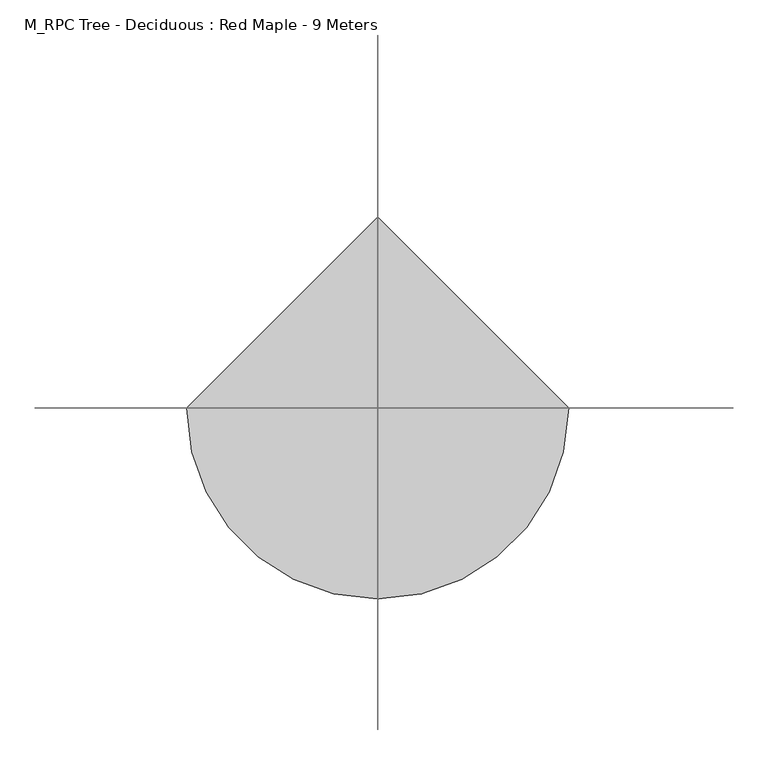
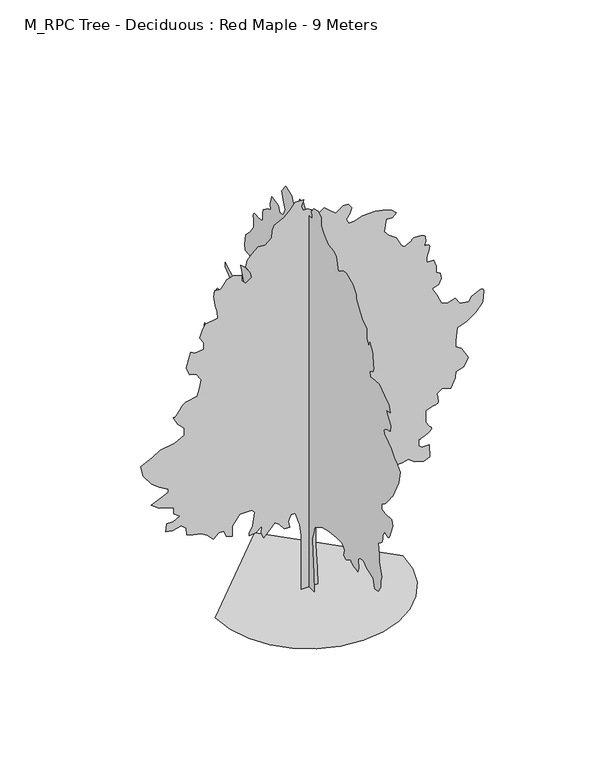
"""IFC4 building model written with IfcOpenShell, lengths in millimetres: geographic element geometry, M_RPC Tree - Deciduous : Red Maple - 9 Meters."""

from ifc_helpers import new_model, si_unit, origin, place, context, project, spatial, triangles, source, transform, mapped, element, save


def m_rpc_tree_deciduous_red_maple_9_meters_b7f9c851(model_context):
    return source(origin(), model_context, "Body", "Tessellation", [
        triangles([(5.8e-06, 197.3661507, 0.0129526), (5.8e-06, -197.3841547, 0.0129526), (5.8e-06, -171.0676287, 394.7628227), (5.8e-06, -144.750367, 907.9407286), (5.8e-06, -131.5926036, 1197.4234222), (5.8e-06, -171.0676287, 1342.1660408), (5.8e-06, -223.7014255, 1513.2237682), (5.8e-06, -315.8102654, 1565.8587822), (5.8e-06, -526.342909, 1684.2838211), (5.8e-06, -750.035614, 1736.9163643), (5.8e-06, -1052.6783329, 1776.3914257), (5.8e-06, -1263.2109764, 1776.3914257), (5.8e-06, -1355.318581, 1671.1238686), (5.8e-06, -1315.8435196, 1526.38125), (5.8e-06, -1421.1110767, 1486.9061886), (5.8e-06, -1592.1712749, 1579.016264), (5.8e-06, -1595.2388203, 1567.7362839), (5.8e-06, -1599.8038033, 1556.4587746), (5.8e-06, -1607.3613361, 1545.1812653), (5.8e-06, -1619.4088566, 1533.9012852), (5.8e-06, -1637.4388607, 1522.6237759), (5.8e-06, -1662.9487862, 1511.3436504), (5.8e-06, -1697.4363613, 1500.0661411), (5.8e-06, -1733.4588718, 1490.3212418), (5.8e-06, -1763.2689709, 1483.3386738), (5.8e-06, -1787.8963921, 1478.6611977), (5.8e-06, -1808.3814789, 1475.8211094), (5.8e-06, -1825.7589066, 1474.3636402), (5.8e-06, -1841.0664024, 1473.826173), (5.8e-06, -1855.3364616, 1473.7487068), (5.8e-06, -1881.6540413, 1565.8587822), (5.8e-06, -1868.4965595, 1763.2339439), (5.8e-06, -1947.446537, 1842.1839214), (5.8e-06, -2079.029203, 1855.3415485), (5.8e-06, -2184.2967602, 1750.0738461), (5.8e-06, -2434.3044651, 1671.1238686), (5.8e-06, -2500.1020477, 1473.7487068), (5.8e-06, -2618.5270866, 1486.9061886), (5.8e-06, -2723.7770576, 1644.8087597), (5.8e-06, -2723.7770576, 1776.3914257), (5.8e-06, -2750.102195, 1881.6589828), (5.8e-06, -2658.0020027, 2184.299231), (5.8e-06, -2658.0020027, 2355.3594292), (5.8e-06, -2631.6771561, 2618.5270866), (5.8e-06, -2634.7019714, 2618.6770775), (5.8e-06, -2639.0019997, 2619.7520119), (5.8e-06, -2645.8271645, 2622.677124), (5.8e-06, -2656.4520973, 2628.3520683), (5.8e-06, -2672.1520111, 2637.702079), (5.8e-06, -2694.1771202, 2651.6770981), (5.8e-06, -2723.7770576, 2671.1520721), (5.8e-06, -2752.6273315, 2695.2520546), (5.8e-06, -2772.5022812, 2722.1021599), (5.8e-06, -2784.9021057, 2751.2521248), (5.8e-06, -2791.3022964, 2782.2522675), (5.8e-06, -2793.227179, 2814.6273262), (5.8e-06, -2792.1522446, 2847.9273285), (5.8e-06, -2789.5771111, 2881.7023018), (5.8e-06, -2868.5272339, 3013.2774101), (5.8e-06, -2899.4523811, 2993.9524269), (5.8e-06, -2929.8022728, 2977.0272972), (5.8e-06, -2958.9772362, 2964.9524529), (5.8e-06, -2986.4523033, 2960.1024582), (5.8e-06, -3011.6275108, 2964.9524529), (5.8e-06, -3033.902314, 2981.8522934), (5.8e-06, -3052.7523262, 3013.2774101), (5.8e-06, -3184.3274345, 3329.0776108), (5.8e-06, -3144.8525185, 3460.6527191), (5.8e-06, -2894.8523712, 3447.5026497), (5.8e-06, -2750.102195, 3460.6527191), (5.8e-06, -2763.2522644, 3592.2528259), (5.8e-06, -2797.1272316, 3612.2277695), (5.8e-06, -2831.2521835, 3633.7029121), (5.8e-06, -2865.8024002, 3658.1778717), (5.8e-06, -2901.0522835, 3687.1528473), (5.8e-06, -2937.227401, 3722.1030396), (5.8e-06, -2974.5774467, 3764.5280663), (5.8e-06, -3013.2774101, 3815.9281265), (5.8e-06, -3049.3025368, 3866.5782326), (5.8e-06, -3079.102462, 3906.8530998), (5.8e-06, -3103.7274124, 3938.5032028), (5.8e-06, -3124.2276146, 3963.2531456), (5.8e-06, -3141.6024261, 3982.8031151), (5.8e-06, -3156.902655, 3998.9282936), (5.8e-06, -3171.1776558, 4013.3032883), (5.8e-06, -3394.8776642, 4460.7035957), (5.8e-06, -3460.6527191, 4750.1786591), (5.8e-06, -3315.9275414, 4908.0789047), (5.8e-06, -3250.1274879, 4921.2286835), (5.8e-06, -3105.3776024, 5105.4540665), (5.8e-06, -3013.2774101, 5171.2541199), (5.8e-06, -2976.8773064, 5188.2792435), (5.8e-06, -2941.9524033, 5206.0043243), (5.8e-06, -2910.027317, 5225.1043213), (5.8e-06, -2882.6022469, 5246.2791916), (5.8e-06, -2861.1773918, 5270.2294739), (5.8e-06, -2847.2023727, 5297.6039658), (5.8e-06, -2842.2023872, 5329.1543655), (5.8e-06, -2849.1272552, 5359.9042328), (5.8e-06, -2868.4522385, 5385.1544357), (5.8e-06, -2898.1524605, 5405.8043381), (5.8e-06, -2936.1274681, 5422.7544662), (5.8e-06, -2980.3273865, 5436.9541809), (5.8e-06, -3028.6523438, 5449.3045898), (5.8e-06, -3079.0524651, 5460.7294739), (5.8e-06, -3092.227533, 5605.4793594), (5.8e-06, -3026.4274796, 5710.7293304), (5.8e-06, -2921.1522194, 5855.4797974), (5.8e-06, -3079.0524651, 5894.9547134), (5.8e-06, -3026.4274796, 6052.8549591), (5.8e-06, -2855.3771645, 6158.1299286), (5.8e-06, -2658.0020027, 6302.8548157), (5.8e-06, -2486.9394791, 6289.7050369), (5.8e-06, -2329.0393787, 6276.5552582), (5.8e-06, -2302.7217991, 6381.8052292), (5.8e-06, -2381.6719219, 6434.4549225), (5.8e-06, -2395.6744102, 6437.4803192), (5.8e-06, -2409.1019337, 6441.7800568), (5.8e-06, -2421.3769112, 6448.6052216), (5.8e-06, -2431.9269939, 6459.2301544), (5.8e-06, -2440.1743103, 6474.9303589), (5.8e-06, -2445.5443314, 6496.9551773), (5.8e-06, -2447.464563, 6526.5551147), (5.8e-06, -2446.3120171, 6563.455188), (5.8e-06, -2443.0918648, 6605.8805054), (5.8e-06, -2438.1420216, 6652.9305405), (5.8e-06, -2431.8118847, 6703.6303528), (5.8e-06, -2424.4469273, 6757.1055771), (5.8e-06, -2416.3894249, 6812.4306885), (5.8e-06, -2407.9893562, 6868.6807434), (5.8e-06, -2302.7217991, 7052.905545), (5.8e-06, -2263.246883, 6947.6305756), (5.8e-06, -2197.4542419, 7066.0559052), (5.8e-06, -2197.4542419, 7316.0557617), (5.8e-06, -2026.3966599, 7421.3307312), (5.8e-06, -1907.9714756, 7579.2309769), (5.8e-06, -1789.5464367, 7750.2810013), (5.8e-06, -1789.5464367, 7842.406192), (5.8e-06, -1657.9612999, 8000.3064377), (5.8e-06, -1421.1110767, 8118.7317673), (5.8e-06, -1289.5285561, 8092.4066299), (5.8e-06, -1118.4684305, 7973.9813004), (5.8e-06, -1026.3608259, 8263.4566544), (5.8e-06, -934.2507505, 8329.2567078), (5.8e-06, -723.718107, 8355.5818451), (5.8e-06, -565.8179704, 8513.4820908), (5.8e-06, -460.552884, 8631.906839), (5.8e-06, -460.552884, 8816.1072235), (5.8e-06, -342.1277724, 8895.0570557), (5.8e-06, -184.2254012, 8855.5821396), (5.8e-06, -92.1178238, 8737.15681), (5.8e-06, -105.8898302, 8706.3569458), (5.8e-06, -117.7053427, 8676.8070053), (5.8e-06, -125.607849, 8649.8069092), (5.8e-06, -127.6411006, 8626.6071625), (5.8e-06, -121.8483492, 8608.4571075), (5.8e-06, -106.2730826, 8596.6316666), (5.8e-06, -78.9590612, 8592.4319229), (5.8e-06, 105.2585824, 8592.4319229), (5.8e-06, 223.6836758, 8763.4819473), (5.8e-06, 355.2677771, 8750.3321686), (5.8e-06, 421.0578383, 8592.4319229), (5.8e-06, 592.1179639, 8513.4820908), (5.8e-06, 657.9080252, 8645.0571991), (5.8e-06, 881.6006939, 8737.15681), (5.8e-06, 1026.3433125, 8539.7816483), (5.8e-06, 960.5507441, 8316.106929), (5.8e-06, 907.9182009, 8171.3564621), (5.8e-06, 973.7107693, 8013.4562164), (5.8e-06, 1105.2933626, 7987.1316605), (5.8e-06, 1157.9259058, 8131.881546), (5.8e-06, 1421.0936359, 8158.2066833), (5.8e-06, 1473.7286499, 7973.9813004), (5.8e-06, 1447.4112156, 7842.406192), (5.8e-06, 1565.8362545, 7802.9312759), (5.8e-06, 1736.8938366, 7671.3311691), (5.8e-06, 1750.0539345, 7579.2309769), (5.8e-06, 1750.0539345, 7421.3307312), (5.8e-06, 1815.8439594, 7381.8558151), (5.8e-06, 1973.7440598, 7381.8558151), (5.8e-06, 2004.5116585, 7387.106076), (5.8e-06, 2033.7816742, 7390.055896), (5.8e-06, 2060.05914, 7388.4059967), (5.8e-06, 2081.8492344, 7379.8559372), (5.8e-06, 2097.654229, 7362.1058578), (5.8e-06, 2105.9791569, 7332.8309006), (5.8e-06, 2105.3291965, 7289.7556229), (5.8e-06, 2100.4566742, 7242.4306046), (5.8e-06, 2096.9666256, 7201.3557861), (5.8e-06, 2094.6266521, 7165.4556519), (5.8e-06, 2093.2066807, 7133.6808472), (5.8e-06, 2092.476638, 7105.0308517), (5.8e-06, 2092.2092125, 7078.4307312), (5.8e-06, 2092.1717148, 7052.905545), (5.8e-06, 2223.7542355, 6868.6807434), (5.8e-06, 2394.8119629, 6697.6301376), (5.8e-06, 2434.286879, 6447.6052826), (5.8e-06, 2407.9719154, 6329.179953), (5.8e-06, 2276.3867786, 6316.0301743), (5.8e-06, 2171.1216923, 6289.7050369), (5.8e-06, 2092.1717148, 6118.6550125), (5.8e-06, 2197.4368011, 5921.2798508), (5.8e-06, 2434.286879, 5921.2798508), (5.8e-06, 2592.1769508, 5868.6295761), (5.8e-06, 2460.6044586, 5526.5295273), (5.8e-06, 2579.0271721, 5394.9294205), (5.8e-06, 2907.9774422, 5434.4043365), (5.8e-06, 3000.1023422, 5487.0546112), (5.8e-06, 3184.3024361, 5579.1542221), (5.8e-06, 3171.1526573, 5487.0546112), (5.8e-06, 2934.3022888, 5276.5040909), (5.8e-06, 2842.2023872, 4987.0287369), (5.8e-06, 2947.4523582, 4763.3287285), (5.8e-06, 3092.2025345, 4776.5037964), (5.8e-06, 3095.3773407, 4790.453817), (5.8e-06, 3100.752594, 4803.6288849), (5.8e-06, 3110.5025803, 4815.1787613), (5.8e-06, 3126.8024574, 4824.3037857), (5.8e-06, 3151.8523819, 4830.204007), (5.8e-06, 3187.8525101, 4832.0788925), (5.8e-06, 3236.9527107, 4829.1287819), (5.8e-06, 3473.8027885, 4802.8039352), (5.8e-06, 3592.2278275, 4631.7536201), (5.8e-06, 3552.7529114, 4447.5285278), (5.8e-06, 3408.0027351, 4342.2785568), (5.8e-06, 3289.5776962, 4052.7782043), (5.8e-06, 3342.2026817, 3868.5781105), (5.8e-06, 3394.8526657, 3802.7780571), (5.8e-06, 3526.427774, 3579.077758), (5.8e-06, 3789.6029892, 3605.4028954), (5.8e-06, 3960.6533043, 3710.6778648), (5.8e-06, 4013.2782898, 3473.827787), (5.8e-06, 3763.2781425, 3355.4027481), (5.8e-06, 3592.2278275, 3302.7527641), (5.8e-06, 3473.8027885, 3039.6025475), (5.8e-06, 3408.0027351, 2881.7023018), (5.8e-06, 3329.0526123, 2658.0020027), (5.8e-06, 3184.3024361, 2684.32714), (5.8e-06, 2960.6274261, 2723.8020561), (5.8e-06, 2776.4023338, 2684.32714), (5.8e-06, 2644.8272255, 2473.7844681), (5.8e-06, 2815.8772499, 2302.726886), (5.8e-06, 2973.7774956, 2276.4093063), (5.8e-06, 3000.1023422, 2026.3991306), (5.8e-06, 2988.6274612, 2001.2715946), (5.8e-06, 2976.0023598, 1977.6416416), (5.8e-06, 2961.0773987, 1957.0016224), (5.8e-06, 2942.7023575, 1940.8515907), (5.8e-06, 2919.7273064, 1930.6865135), (5.8e-06, 2891.0023155, 1928.001503), (5.8e-06, 2855.352166, 1934.291526), (5.8e-06, 2818.1771095, 1946.7215813), (5.8e-06, 2785.1520905, 1961.2215683), (5.8e-06, 2755.5771515, 1977.4490662), (5.8e-06, 2728.7520447, 1995.0590378), (5.8e-06, 2704.0271004, 2013.7016499), (5.8e-06, 2680.6520737, 2033.0366615), (5.8e-06, 2657.9770042, 2052.7167103), (5.8e-06, 2565.8771027, 2157.9842674), (5.8e-06, 2548.8019821, 2185.796814), (5.8e-06, 2530.801918, 2211.3067394), (5.8e-06, 2510.9769653, 2232.2143295), (5.8e-06, 2488.3795074, 2246.2168179), (5.8e-06, 2462.0994255, 2251.0117287), (5.8e-06, 2431.219479, 2244.2993477), (5.8e-06, 2394.8119629, 2223.7767632), (5.8e-06, 2349.1993401, 2197.1142918), (5.8e-06, 2292.5368103, 2173.2142971), (5.8e-06, 2226.6693192, 2151.6167782), (5.8e-06, 2153.4342545, 2131.8592632), (5.8e-06, 2074.6767071, 2113.484222), (5.8e-06, 1992.2365356, 2096.0291828), (5.8e-06, 1907.9540348, 2079.0341446), (5.8e-06, 1697.4189205, 2026.3991306), (5.8e-06, 1763.2114162, 1894.8164646), (5.8e-06, 1973.7440598, 1763.2339439), (5.8e-06, 2079.0116169, 1592.1737457), (5.8e-06, 1894.7940823, 1526.38125), (5.8e-06, 1869.3215092, 1526.5736801), (5.8e-06, 1843.2739712, 1527.9161854), (5.8e-06, 1816.0738873, 1531.5611664), (5.8e-06, 1787.1489086, 1538.6586983), (5.8e-06, 1755.9214542, 1550.3587109), (5.8e-06, 1721.8164139, 1567.8137501), (5.8e-06, 1684.2612934, 1592.1737457), (5.8e-06, 1645.5537724, 1620.7538326), (5.8e-06, 1608.2262543, 1650.0238483), (5.8e-06, 1572.0512821, 1679.8712997), (5.8e-06, 1536.7961666, 1710.1764267), (5.8e-06, 1502.2312706, 1740.8289162), (5.8e-06, 1468.1262302, 1771.7114788), (5.8e-06, 1434.2511177, 1802.7090054), (5.8e-06, 1171.085931, 1881.6589828), (5.8e-06, 960.5507441, 1921.1340443), (5.8e-06, 750.0181005, 1973.7665874), (5.8e-06, 539.4829136, 1934.291526), (5.8e-06, 249.9999474, 1829.0239689), (5.8e-06, 171.0498791, 1723.7588825), (5.8e-06, 105.2585824, 1539.5412025), (5.8e-06, 78.9410663, 1276.3735451), (5.8e-06, 105.2585824, 921.0982103), (5.8e-06, 157.8911256, 407.9228116), (-2052.3641155, 0.0, 0.0), (-1998.1065262, -470.2653726, 0.0), (-1843.5815105, -902.1306908, 0.0), (-1601.1612785, -1283.2184761, 0.0), (-1283.2184761, -1601.1612785, 0.0), (-902.1306908, -1843.5815105, 0.0), (-470.2653726, -1998.1065262, 0.0), (8.97e-05, -2052.3641155, 0.0), (470.2653726, -1998.1065262, 0.0), (902.1306908, -1843.5815105, 0.0), (1283.2184761, -1601.1612785, 0.0), (1601.1612785, -1283.2184761, 0.0), (1843.5815105, -902.1306908, 0.0), (1998.1065262, -470.2653726, 0.0), (2052.3641155, 0.0001799, 0.0), (-0.0002691, 2052.3641155, 0.0), (196.7396627, 0.0002249, 0.0051811), (-167.0323917, 0.0002249, 0.0051811), (-167.0323917, 0.0001889, 673.6580086), (-167.0323917, 0.0001619, 1023.9582836), (-167.0323917, 0.0001529, 1252.9985184), (-207.4516724, 0.0001349, 1508.988707), (-301.7627399, 0.0001169, 1805.3940159), (-396.0753153, 0.0001169, 1805.3940159), (-449.967847, 0.0001259, 1657.1912888), (-423.0203276, 0.0001349, 1522.4612858), (-544.2779334, 0.0001349, 1535.9337193), (-652.0630331, 0.0001259, 1670.6638676), (-746.3755903, 0.0001259, 1738.0289417), (-854.1581829, 0.0001259, 1616.7712269), (-988.8882586, 0.0001349, 1482.0412239), (-1042.7808266, 0.0001349, 1603.2987934), (-1029.3083204, 0.0001259, 1764.9764248), (-1164.0383961, 0.0001259, 1657.1912888), (-1312.243594, 0.0001259, 1643.7188553), (-1312.243594, 0.0001259, 1711.0839294), (-1231.4034702, 0.0001169, 1845.8139324), (-1190.9859518, 9.89e-05, 2142.2217121), (-1258.3509533, 9.89e-05, 2209.5867863), (-1514.3386711, 9.89e-05, 2209.5867863), (-1676.0138317, 0.0001079, 1980.5440807), (-1676.0138317, 0.0001169, 1886.2339943), (-1676.0138317, 0.0001259, 1751.503846), (-1810.7464508, 0.0001169, 1805.3940159), (-1864.6389462, 0.0001079, 1940.1264896), (-1972.4216114, 0.0001079, 1940.1264896), (-2093.6791809, 0.0001169, 1832.3414989), (-2228.4093292, 0.0001079, 1967.0715019), (-2363.1419483, 0.0001079, 2047.9091549), (-2538.3020416, 9.89e-05, 2088.3292168), (-2673.0272484, 9.89e-05, 2142.2217121), (-2686.5020073, 8.99e-05, 2290.4242939), (-2794.2771149, 8.1e-05, 2384.7368511), (-2996.3772789, 8.99e-05, 2344.3169346), (-3131.1024857, 8.1e-05, 2371.2644176), (-3117.6274361, 7.2e-05, 2546.4021286), (-2969.4274704, 7.2e-05, 2546.4021286), (-2834.7022636, 7.2e-05, 2627.2521355), (-2955.9524208, 6.3e-05, 2721.5521935), (-2955.9524208, 5.4e-05, 2856.3023987), (-3090.6773369, 5.4e-05, 2910.1773079), (-3279.302742, 5.4e-05, 2964.0775063), (-3454.4528069, 4.5e-05, 3098.8024223), (-3238.8775932, 3.6e-05, 3193.1274788), (-3077.202578, 3.6e-05, 3260.4777283), (-3077.202578, 2.7e-05, 3327.8526855), (-3279.302742, 1.8e-05, 3449.1028427), (-3440.9777573, 1.8e-05, 3570.3779984), (-3629.6028717, 0.0, 3826.3530716), (-3683.5030701, -1.8e-05, 4068.8783844), (-3575.7279625, -1.8e-05, 4122.7532936), (-3427.5027077, -2.7e-05, 4190.1282509), (-3252.3526428, -2.7e-05, 4297.9033585), (-2942.4773712, -3.6e-05, 4351.8035568), (-2726.9021576, -3.6e-05, 4459.5786644), (-2726.9021576, -4.5e-05, 4621.2536797), (-2875.1274124, -5.4e-05, 4769.4789345), (-2969.4274704, -7.2e-05, 4944.6289993), (-2960.6274261, -7.2e-05, 4942.0541565), (-2951.0024323, -7.2e-05, 4941.5041901), (-2939.7272484, -7.2e-05, 4944.978978), (-2925.9772156, -7.2e-05, 4954.4289825), (-2908.9273842, -7.2e-05, 4971.9040787), (-2887.7772217, -7.2e-05, 4999.4041443), (-2861.6523628, -7.2e-05, 5038.9290573), (-2833.9523094, -7.2e-05, 5080.8038269), (-2808.3771263, -8.1e-05, 5114.904071), (-2784.5771255, -8.1e-05, 5142.5041306), (-2762.17733, -8.1e-05, 5164.9289246), (-2740.8521782, -8.1e-05, 5183.4789551), (-2720.2272743, -8.1e-05, 5199.4291443), (-2699.9770569, -8.1e-05, 5214.0794128), (-2443.9793106, -8.99e-05, 5267.9790298), (-2390.0869606, -9.89e-05, 5456.6041443), (-2363.1419483, -0.0001079, 5618.2797409), (-2470.9270844, -0.0001169, 5779.9547562), (-2605.6520004, -0.0001169, 5820.3546158), (-2686.5020073, -0.0001349, 5995.5049713), (-2632.6020996, -0.0001439, 6184.1300858), (-2592.1769508, -0.0001529, 6332.3303421), (-2497.8719513, -0.0001439, 6278.4551422), (-2309.2493076, -0.0001529, 6305.4052414), (-2309.2493076, -0.0001619, 6453.6049164), (-2390.0869606, -0.0001619, 6588.3304138), (-2336.1943199, -0.0001709, 6736.5306702), (-2268.8292458, -0.0001799, 6871.2555862), (-1999.3690945, -0.0001889, 6911.6804443), (-2012.8416733, -0.0001979, 7073.3554596), (-2053.2615898, -0.0002069, 7221.5557159), (-2080.2066021, -0.0002159, 7437.1309296), (-2066.7341686, -0.0002249, 7571.8558456), (-1932.0040203, -0.0002249, 7558.3810867), (-1864.6389462, -0.0002249, 7639.2313843), (-1797.273872, -0.0002339, 7733.5314423), (-1662.5413982, -0.0002339, 7773.9563004), (-1473.9186092, -0.0002339, 7720.056102), (-1473.9186092, -0.0002249, 7598.8059448), (-1379.6086681, -0.0002249, 7504.5058868), (-1258.3509533, -0.0002249, 7598.8059448), (-1285.2959656, -0.0002339, 7733.5314423), (-1379.6086681, -0.0002429, 7881.7311172), (-1352.6610397, -0.0002519, 8029.9563721), (-1244.876049, -0.0002609, 8137.7317703), (-1110.1459007, -0.0002698, 8258.9813461), (-961.9432463, -0.0002609, 8245.5065872), (-813.7406645, -0.0002698, 8366.7817429), (-800.2656149, -0.0002788, 8514.9819992), (-759.8480965, -0.0002878, 8636.2321564), (-557.7504395, -0.0002968, 8730.5572128), (-436.4928337, -0.0002968, 8838.3320297), (-301.7627399, -0.0003058, 9000.007045), (-113.1403415, -0.0003058, 9000.007045), (-167.0323917, -0.0002968, 8851.80737), (-126.6133472, -0.0002968, 8757.4817322), (-32.3020254, -0.0002968, 8757.4817322), (48.5362907, -0.0002878, 8703.6071136), (75.4823112, -0.0002878, 8595.8067169), (237.1586891, -0.0002878, 8582.331958), (331.4702471, -0.0002878, 8649.7069153), (466.2003591, -0.0002788, 8541.9320984), (587.4579649, -0.0002788, 8434.1317017), (749.1355963, -0.0002788, 8555.4068573), (856.9206596, -0.0002788, 8555.4068573), (937.7582399, -0.0002788, 8447.6070419), (897.3382507, -0.0002698, 8312.8815445), (816.5006704, -0.0002609, 8218.5814865), (870.3931658, -0.0002609, 8110.7816711), (991.650808, -0.0002609, 8110.7816711), (1180.2734516, -0.0002609, 8178.1566284), (1449.7336029, -0.0002609, 8178.1566284), (1611.4112343, -0.0002609, 8151.2065292), (1813.5064568, -0.0002519, 8083.831572), (1907.819014, -0.0002519, 7989.531514), (1826.9788902, -0.0002429, 7895.2064575), (1692.2488873, -0.0002429, 7908.6812164), (1665.303875, -0.0002339, 7787.4310593), (1651.8288254, -0.0002249, 7639.2313843), (1746.1413826, -0.0002249, 7517.9812271), (1907.819014, -0.0002159, 7410.1808304), (2015.6016792, -0.0001979, 7194.6056168), (2082.966608, -0.0001979, 7140.7309982), (2244.6442394, -0.0002069, 7221.5557159), (2247.8267487, -0.0002069, 7233.0305969), (2252.7742664, -0.0002069, 7244.0305069), (2261.259359, -0.0002069, 7254.0810562), (2275.0468895, -0.0002069, 7262.7305283), (2295.9043373, -0.0002069, 7269.4806976), (2325.5993271, -0.0002069, 7273.8810104), (2365.9019543, -0.0002069, 7275.4559143), (2407.7743984, -0.0002069, 7273.8810104), (2441.8695557, -0.0002069, 7269.4806976), (2469.4844398, -0.0002069, 7262.7305283), (2491.91185, -0.0002069, 7254.0810562), (2510.4519974, -0.0002069, 7244.0305069), (2526.4018959, -0.0002069, 7233.0305969), (2541.0521645, -0.0002069, 7221.5557159), (2554.5269234, -0.0001979, 7100.3055588), (2527.5771149, -0.0001889, 7006.0055008), (2558.951944, -0.0001889, 7005.5555283), (2588.1021996, -0.0001889, 7002.5307129), (2612.7771469, -0.0001889, 6994.330632), (2630.7272141, -0.0001889, 6978.3304459), (2639.7272461, -0.0001889, 6951.9803101), (2637.5270897, -0.0001889, 6912.6553848), (2621.9021713, -0.0001799, 6857.780246), (2602.3272034, -0.0001799, 6799.7802979), (2589.127137, -0.0001799, 6751.6553284), (2581.2270378, -0.0001709, 6711.7804367), (2577.5769699, -0.0001709, 6678.5051422), (2577.1019989, -0.0001709, 6650.2051254), (2578.7521889, -0.0001709, 6625.1804901), (2581.4770226, -0.0001709, 6601.8051727), (2729.6772789, -0.0001709, 6601.8051727), (2783.5771866, -0.0001529, 6440.1301575), (2783.5771866, -0.0001529, 6305.4052414), (2877.8772446, -0.0001439, 6251.505043), (2891.3522942, -0.0001349, 6130.2548859), (2837.4523865, -0.0001349, 6008.9797302), (2702.7271797, -0.0001259, 5955.1045303), (2797.0522362, -0.0001169, 5779.9547562), (2891.3522942, -0.0001079, 5564.3795425), (3026.0775009, -9.89e-05, 5497.0045853), (3201.2275658, -0.0001079, 5550.9042023), (3295.5526222, -9.89e-05, 5402.7045273), (3497.6277878, -8.99e-05, 5375.7544281), (3565.0027451, -9.89e-05, 5470.0544861), (3619.4779083, -9.89e-05, 5501.3043228), (3671.7279167, -9.89e-05, 5529.3293564), (3719.5029076, -0.0001079, 5551.0291946), (3760.5280197, -0.0001079, 5563.1546173), (3792.6280952, -0.0001079, 5562.5796524), (3813.5279823, -0.0001079, 5546.0794968), (3821.0031075, -9.89e-05, 5510.4793442), (3820.2031563, -9.89e-05, 5465.8541611), (3818.0029999, -9.89e-05, 5424.0793854), (3814.6279152, -8.99e-05, 5384.6294678), (3810.3031792, -8.99e-05, 5347.0794342), (3805.2779045, -8.99e-05, 5310.9543137), (3799.7779495, -8.99e-05, 5275.7541367), (3794.0530083, -8.99e-05, 5241.0289307), (3645.8530426, -7.2e-05, 5079.3539154), (3457.2276375, -6.3e-05, 4931.1536591), (3241.6527145, -6.3e-05, 4863.7789925), (3214.7026154, -4.5e-05, 4567.3787704), (3214.7026154, -3.6e-05, 4432.6285652), (3335.9527725, -3.6e-05, 4351.8035568), (3484.1777367, -1.8e-05, 4095.8031944), (3389.8526802, -9e-06, 3907.2030785), (3214.7026154, 0.0, 3853.3031708), (3201.2275658, 9e-06, 3718.577964), (3106.9275078, 1.8e-05, 3503.0027504), (2918.3023933, 1.8e-05, 3570.3779984), (2801.5522522, 1.8e-05, 3481.1779198), (2800.6773056, 1.8e-05, 3482.6028328), (2800.3023285, 1.8e-05, 3481.8278801), (2800.9522888, 1.8e-05, 3476.6779037), (2803.1271561, 1.8e-05, 3464.9277489), (2807.3521889, 1.8e-05, 3444.4028389), (2814.1523552, 2.7e-05, 3412.9277252), (2823.9773369, 2.7e-05, 3368.2778343), (2830.0272583, 2.7e-05, 3322.9776924), (2826.1772026, 2.7e-05, 3289.7026886), (2814.0773598, 3.6e-05, 3266.4526543), (2795.4023369, 3.6e-05, 3251.202713), (2771.752327, 3.6e-05, 3241.9776947), (2744.8022278, 3.6e-05, 3236.7527229), (2716.2022293, 3.6e-05, 3233.5276291), (2554.5269234, 3.6e-05, 3179.6524292), (2554.5269234, 5.4e-05, 2910.1773079), (2635.3522224, 6.3e-05, 2788.9271507), (2655.0521828, 6.3e-05, 2771.5273407), (2671.5520477, 6.3e-05, 2753.652269), (2681.6770111, 6.3e-05, 2734.8272552), (2682.2522667, 6.3e-05, 2714.6020363), (2670.1271347, 6.3e-05, 2692.5022224), (2642.0771027, 7.2e-05, 2668.0272629), (2594.9520721, 7.2e-05, 2640.7271851), (2543.4770164, 7.2e-05, 2615.3769882), (2503.35214, 7.2e-05, 2596.4269821), (2472.6243645, 7.2e-05, 2582.7519447), (2449.4493256, 7.2e-05, 2573.3269386), (2431.9319355, 7.2e-05, 2567.0770294), (2418.1843735, 7.2e-05, 2562.9519905), (2406.3218708, 7.2e-05, 2559.8771782), (2406.3218708, 8.1e-05, 2425.156913), (2473.6870903, 8.99e-05, 2357.7893681), (2635.3522224, 8.99e-05, 2357.7893681), (2648.8269814, 9.89e-05, 2074.856638), (2514.1020653, 0.0001079, 2020.9641426), (2312.0093136, 9.89e-05, 2088.3292168), (2177.2793106, 9.89e-05, 2182.641774), (2042.5491623, 9.89e-05, 2155.6942909), (1800.0338779, 9.89e-05, 2142.2217121), (1651.8288254, 9.89e-05, 2101.8016502), (1638.3562466, 0.0001169, 1913.1790066), (1490.1536648, 0.0001169, 1899.7065731), (1301.5310211, 0.0001169, 1913.1790066), (1220.6910427, 0.0001169, 1791.9214371), (937.7582399, 0.0001259, 1751.503846), (722.1881132, 0.0001169, 1805.3940159), (722.1881132, 0.0001349, 1589.8262146), (547.0404465, 0.0001349, 1603.2987934), (493.1478785, 0.0001259, 1711.0839294), (398.8353212, 0.0001259, 1670.6638676), (291.0502397, 0.0001259, 1670.6638676), (250.6327031, 0.0001169, 1791.9214371), (142.8473672, 0.0001259, 1670.6638676), (129.3743524, 0.0001349, 1522.4612858), (142.8473672, 0.0001529, 1293.4185802), (142.8473672, 0.0001709, 916.1732203), (183.2666479, 0.0002069, 377.2503016)], [[130, 131, 132], [208, 209, 210], [208, 210, 211], [207, 208, 211], [230, 231, 232], [230, 232, 233], [276, 277, 278], [229, 230, 233], [229, 233, 234], [302, 1, 2], [302, 2, 3], [302, 3, 4], [301, 302, 4], [301, 4, 5], [300, 301, 5], [300, 5, 6], [299, 300, 6], [299, 6, 7], [108, 109, 110], [203, 204, 205], [206, 207, 211], [206, 211, 212], [108, 110, 111], [202, 203, 205], [13, 14, 15], [13, 15, 16], [236, 237, 238], [171, 172, 173], [170, 171, 173], [170, 173, 174], [36, 37, 38], [36, 38, 39], [36, 39, 40], [275, 276, 278], [275, 278, 279], [275, 279, 280], [275, 280, 281], [275, 281, 282], [275, 282, 283], [275, 283, 284], [275, 284, 285], [275, 285, 286], [275, 286, 287], [275, 287, 288], [275, 288, 289], [275, 289, 290], [274, 275, 290], [274, 290, 291], [274, 291, 292], [67, 68, 69], [66, 67, 69], [164, 165, 166], [164, 166, 167], [163, 164, 167], [163, 167, 168], [242, 243, 244], [29, 30, 31], [104, 105, 106], [197, 198, 199], [28, 29, 31], [298, 299, 7], [66, 69, 70], [65, 66, 70], [64, 65, 70], [63, 64, 70], [62, 63, 70], [61, 62, 70], [60, 61, 70], [59, 60, 70], [27, 28, 31], [150, 151, 152], [160, 161, 162], [159, 160, 162], [196, 197, 199], [195, 196, 199], [195, 199, 200], [26, 27, 31], [133, 134, 135], [242, 244, 245], [242, 245, 246], [242, 246, 247], [242, 247, 248], [242, 248, 249], [242, 249, 250], [242, 250, 251], [242, 251, 252], [242, 252, 253], [242, 253, 254], [242, 254, 255], [242, 255, 256], [242, 256, 257], [242, 257, 258], [242, 258, 259], [241, 242, 259], [241, 259, 260], [241, 260, 261], [241, 261, 262], [241, 262, 263], [241, 263, 264], [298, 7, 8], [274, 292, 293], [147, 148, 149], [147, 149, 150], [147, 150, 152], [147, 152, 153], [147, 153, 154], [147, 154, 155], [147, 155, 156], [36, 40, 41], [36, 41, 42], [35, 36, 42], [34, 35, 42], [34, 42, 43], [86, 87, 88], [86, 88, 89], [34, 43, 44], [104, 106, 107], [103, 104, 107], [102, 103, 107], [25, 26, 31], [25, 31, 32], [24, 25, 32], [23, 24, 32], [22, 23, 32], [21, 22, 32], [20, 21, 32], [19, 20, 32], [18, 19, 32], [17, 18, 32], [16, 17, 32], [13, 16, 32], [12, 13, 32], [102, 107, 108], [101, 102, 108], [129, 130, 132], [146, 147, 156], [100, 101, 108], [236, 238, 239], [146, 156, 157], [221, 222, 223], [221, 223, 224], [221, 224, 225], [220, 221, 225], [219, 220, 225], [218, 219, 225], [217, 218, 225], [216, 217, 225], [215, 216, 225], [214, 215, 225], [213, 214, 225], [213, 225, 226], [33, 34, 44], [235, 236, 239], [298, 8, 9], [297, 298, 9], [12, 32, 33], [58, 59, 70], [175, 176, 177], [85, 86, 89], [85, 89, 90], [85, 90, 91], [85, 91, 92], [84, 85, 92], [84, 92, 93], [83, 84, 93], [82, 83, 93], [82, 93, 94], [81, 82, 94], [80, 81, 94], [80, 94, 95], [79, 80, 95], [12, 33, 44], [78, 79, 95], [77, 78, 95], [76, 77, 95], [75, 76, 95], [74, 75, 95], [73, 74, 95], [72, 73, 95], [71, 72, 95], [71, 95, 96], [108, 111, 112], [108, 112, 113], [100, 108, 113], [100, 113, 114], [99, 100, 114], [98, 99, 114], [194, 195, 200], [128, 129, 132], [137, 138, 139], [175, 177, 178], [174, 175, 178], [241, 264, 265], [139, 140, 141], [139, 141, 142], [137, 139, 142], [229, 234, 235], [229, 235, 239], [228, 229, 239], [227, 228, 239], [227, 239, 240], [226, 227, 240], [213, 226, 240], [136, 137, 142], [142, 143, 144], [142, 144, 145], [145, 146, 157], [127, 128, 132], [11, 12, 44], [170, 174, 178], [194, 200, 201], [71, 96, 97], [145, 157, 158], [169, 170, 178], [212, 213, 240], [206, 212, 240], [205, 206, 240], [205, 240, 241], [205, 241, 265], [205, 265, 266], [205, 266, 267], [205, 267, 268], [205, 268, 269], [205, 269, 270], [205, 270, 271], [205, 271, 272], [205, 272, 273], [205, 273, 274], [205, 274, 293], [205, 293, 294], [205, 294, 295], [202, 205, 295], [202, 295, 296], [201, 202, 296], [201, 296, 297], [201, 297, 9], [201, 9, 10], [201, 10, 11], [201, 11, 44], [194, 201, 44], [193, 194, 44], [193, 44, 45], [193, 45, 46], [193, 46, 47], [193, 47, 48], [193, 48, 49], [193, 49, 50], [193, 50, 51], [193, 51, 52], [193, 52, 53], [193, 53, 54], [193, 54, 55], [193, 55, 56], [193, 56, 57], [193, 57, 58], [193, 58, 70], [193, 70, 71], [193, 71, 97], [193, 97, 98], [193, 98, 114], [193, 114, 115], [192, 193, 115], [191, 192, 115], [190, 191, 115], [189, 190, 115], [188, 189, 115], [187, 188, 115], [186, 187, 115], [185, 186, 115], [184, 185, 115], [183, 184, 115], [182, 183, 115], [181, 182, 115], [180, 181, 115], [179, 180, 115], [178, 179, 115], [169, 178, 115], [168, 169, 115], [163, 168, 115], [162, 163, 115], [159, 162, 115], [158, 159, 115], [145, 158, 115], [142, 145, 115], [136, 142, 115], [135, 136, 115], [133, 135, 115], [132, 133, 115], [127, 132, 115], [126, 127, 115], [126, 115, 116], [125, 126, 116], [124, 125, 116], [123, 124, 116], [122, 123, 116], [121, 122, 116], [121, 116, 117], [120, 121, 117], [120, 117, 118], [119, 120, 118], [317, 318, 303], [316, 317, 303], [316, 303, 304], [315, 316, 304], [315, 304, 305], [315, 305, 306], [314, 315, 306], [313, 314, 306], [313, 306, 307], [313, 307, 308], [313, 308, 309], [313, 309, 310], [313, 310, 311], [313, 311, 312], [379, 380, 381], [379, 381, 382], [364, 365, 366], [344, 345, 346], [332, 333, 334], [433, 434, 435], [327, 328, 329], [401, 402, 403], [327, 329, 330], [344, 346, 347], [343, 344, 347], [332, 334, 335], [432, 433, 435], [379, 382, 383], [534, 535, 536], [336, 337, 338], [336, 338, 339], [335, 336, 339], [582, 583, 584], [582, 584, 585], [593, 319, 320], [593, 320, 321], [592, 593, 321], [592, 321, 322], [591, 592, 322], [591, 322, 323], [412, 413, 414], [331, 332, 335], [591, 323, 324], [590, 591, 324], [568, 569, 570], [568, 570, 571], [568, 571, 572], [568, 572, 573], [567, 568, 573], [348, 349, 350], [532, 533, 534], [454, 455, 456], [454, 456, 457], [453, 454, 457], [357, 358, 359], [356, 357, 359], [355, 356, 359], [355, 359, 360], [363, 364, 366], [363, 366, 367], [589, 590, 324], [589, 324, 325], [576, 577, 578], [371, 372, 373], [335, 339, 340], [379, 383, 384], [504, 505, 506], [440, 441, 442], [417, 418, 419], [326, 327, 330], [494, 495, 496], [586, 587, 588], [362, 363, 367], [432, 435, 436], [588, 589, 325], [326, 330, 331], [352, 353, 354], [585, 586, 588], [452, 453, 457], [331, 335, 340], [379, 384, 385], [416, 417, 419], [415, 416, 419], [411, 412, 414], [531, 532, 534], [528, 529, 530], [528, 530, 531], [527, 528, 531], [431, 432, 436], [414, 415, 419], [411, 414, 419], [411, 419, 420], [410, 411, 420], [409, 410, 420], [576, 578, 579], [371, 373, 374], [370, 371, 374], [370, 374, 375], [369, 370, 375], [369, 375, 376], [368, 369, 376], [368, 376, 377], [407, 408, 409], [452, 457, 458], [451, 452, 458], [450, 451, 458], [450, 458, 459], [497, 498, 499], [497, 499, 500], [497, 500, 501], [445, 446, 447], [444, 445, 447], [443, 444, 447], [443, 447, 448], [326, 331, 340], [360, 361, 362], [494, 496, 497], [405, 406, 407], [405, 407, 409], [398, 399, 400], [398, 400, 401], [398, 401, 403], [398, 403, 404], [397, 398, 404], [579, 580, 581], [494, 497, 501], [425, 426, 427], [379, 385, 386], [429, 430, 431], [527, 531, 534], [477, 478, 479], [476, 477, 479], [475, 476, 479], [474, 475, 479], [473, 474, 479], [473, 479, 480], [472, 473, 480], [471, 472, 480], [470, 471, 480], [469, 470, 480], [468, 469, 480], [467, 468, 480], [466, 467, 480], [465, 466, 480], [464, 465, 480], [463, 464, 480], [566, 567, 573], [566, 573, 574], [566, 574, 575], [428, 429, 431], [428, 431, 436], [422, 423, 424], [422, 424, 425], [422, 425, 427], [421, 422, 427], [342, 343, 347], [437, 438, 439], [436, 437, 439], [428, 436, 439], [378, 379, 386], [378, 386, 387], [378, 387, 388], [378, 388, 389], [378, 389, 390], [378, 390, 391], [378, 391, 392], [378, 392, 393], [378, 393, 394], [378, 394, 395], [582, 585, 588], [351, 352, 354], [513, 514, 515], [512, 513, 515], [511, 512, 515], [511, 515, 516], [510, 511, 516], [510, 516, 517], [509, 510, 517], [509, 517, 518], [509, 518, 519], [508, 509, 519], [507, 508, 519], [507, 519, 520], [507, 520, 521], [507, 521, 522], [507, 522, 523], [507, 523, 524], [506, 507, 524], [506, 524, 525], [504, 506, 525], [503, 504, 525], [354, 355, 360], [579, 581, 582], [342, 347, 348], [342, 348, 350], [342, 350, 351], [342, 351, 354], [342, 354, 360], [342, 360, 362], [342, 362, 367], [342, 367, 368], [342, 368, 377], [341, 342, 377], [449, 450, 459], [527, 534, 536], [404, 405, 409], [341, 377, 378], [341, 378, 395], [341, 395, 396], [503, 525, 526], [440, 442, 443], [555, 556, 557], [554, 555, 557], [554, 557, 558], [553, 554, 558], [552, 553, 558], [552, 558, 559], [551, 552, 559], [551, 559, 560], [551, 560, 561], [551, 561, 562], [551, 562, 563], [551, 563, 564], [551, 564, 565], [551, 565, 566], [551, 566, 575], [550, 551, 575], [550, 575, 576], [460, 461, 462], [483, 484, 485], [482, 483, 485], [482, 485, 486], [481, 482, 486], [481, 486, 487], [480, 481, 487], [480, 487, 488], [463, 480, 488], [463, 488, 489], [463, 489, 490], [463, 490, 491], [463, 491, 492], [463, 492, 493], [463, 493, 494], [463, 494, 501], [341, 396, 397], [340, 341, 397], [326, 340, 397], [325, 326, 397], [588, 325, 397], [582, 588, 397], [579, 582, 397], [576, 579, 397], [550, 576, 397], [550, 397, 404], [550, 404, 409], [550, 409, 420], [550, 420, 421], [549, 550, 421], [549, 421, 427], [549, 427, 428], [549, 428, 439], [549, 439, 440], [549, 440, 443], [549, 443, 448], [549, 448, 449], [549, 449, 459], [549, 459, 460], [549, 460, 462], [549, 462, 463], [549, 463, 501], [549, 501, 502], [549, 502, 503], [548, 549, 503], [547, 548, 503], [526, 527, 536], [503, 526, 536], [544, 545, 546], [543, 544, 546], [543, 546, 547], [542, 543, 547], [541, 542, 547], [540, 541, 547], [503, 536, 537], [547, 503, 537], [547, 537, 538], [547, 538, 539], [540, 547, 539]], closed=False),
    ])


if __name__ == "__main__":
    model = new_model("IFC4")
    model_context = context("Model", 3, world=origin())
    ifc_project = project(units=[si_unit("LENGTHUNIT", "METRE", prefix="MILLI")], contexts=[model_context])
    site = spatial("IfcSite", under=ifc_project)
    building = spatial("IfcBuilding", under=site)
    placement = place(None, origin())
    m_rpc_tree_deciduous_red_maple_9_meters_shape = m_rpc_tree_deciduous_red_maple_9_meters_b7f9c851(model_context)
    element("IfcGeographicElement", 1, ObjectType="M_RPC Tree - Deciduous : Red Maple - 9 Meters", at=placement, inside=building, context=model_context, shape_type="MappedRepresentation", body=[
        mapped(m_rpc_tree_deciduous_red_maple_9_meters_shape, transform((0.0, 0.0, 0.0), x_axis=(1.0, 0.0, 0.0), y_axis=(0.0, 1.0, 0.0), z_axis=(0.0, 0.0, 1.0))),
    ])
    save(model, "model.ifc")
